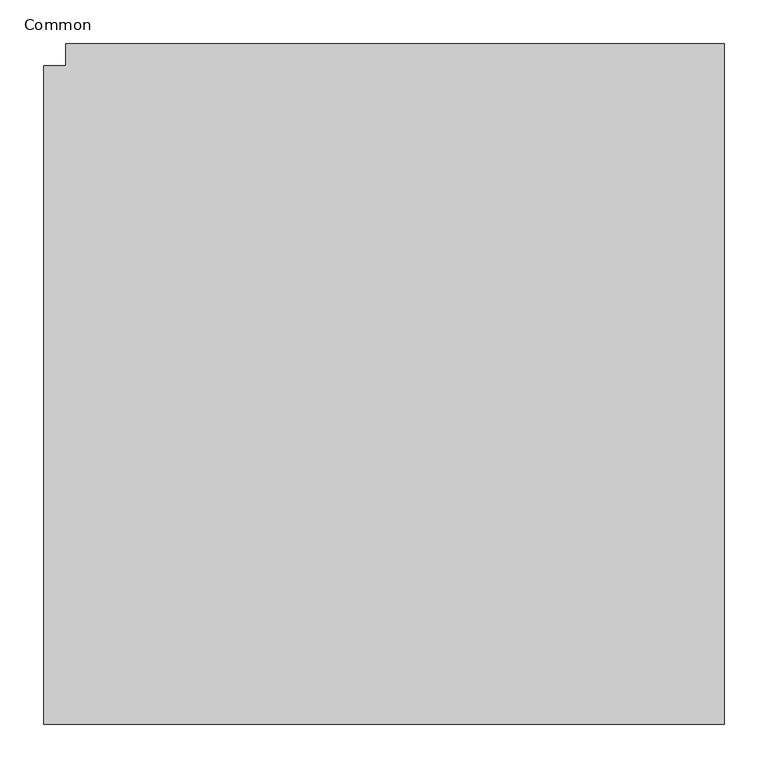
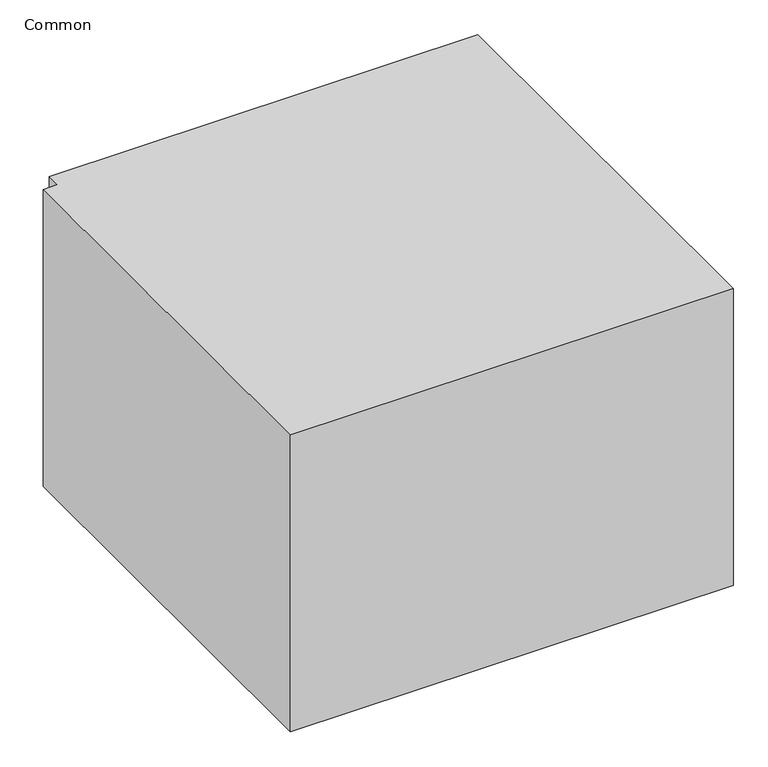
"""IFC4 building model written with IfcOpenShell, lengths in millimetres: duct fitting geometry, 014_角形分割エルボ - 一重ベーン : Common."""

import ifcopenshell
import ifcopenshell.guid

model = None  # the IFC model being written
_history = None  # IfcOwnerHistory: only IFC2X3 demands one
_inside = {}  # id of a spatial element -> (the spatial element, [elements in it])
_under = {}  # id of a project, library or spatial element -> (it, [spatial elements below it])
_declared = {}  # id of a project -> (the project, [libraries it declares])
_typed = {}  # id of a type object -> (the type object, [elements of that type])
_made_of = {}  # id of a material, layer set ... -> (it, [elements and type objects made of it])


def new_model(schema):
    """Start an empty IFC model of exactly this schema.

    Asked for "IFC4X3", IfcOpenShell would pick the latest addendum, in which some entities
    have other attributes; the version numbers below select the first issue.
    IFC2X3 requires an IfcOwnerHistory on every rooted entity: one is made here for all.
    """
    global model, _history
    if schema == "IFC4X3":
        model = ifcopenshell.file(schema_version=(4, 3, 0, 0))
    else:
        model = ifcopenshell.file(schema=schema)
    _inside.clear()
    _under.clear()
    _declared.clear()
    _typed.clear()
    _made_of.clear()
    _history = None
    if model.schema == "IFC2X3":
        org = make("IfcOrganization", Name="unknown")
        user = make(
            "IfcPersonAndOrganization",
            ThePerson=make("IfcPerson", FamilyName="unknown"),
            TheOrganization=org,
        )
        app = make(
            "IfcApplication",
            ApplicationDeveloper=org,
            Version="unknown",
            ApplicationFullName="unknown",
            ApplicationIdentifier="unknown",
        )
        _history = make(
            "IfcOwnerHistory",
            OwningUser=user,
            OwningApplication=app,
            ChangeAction="ADDED",
            CreationDate=0,
        )
    return model


def make(cls, **values):
    """One entity of the class cls with the attributes given. An attribute that is None is left unset."""
    return model.create_entity(
        cls, **{name: value for name, value in values.items() if value is not None}
    )


def rooted(cls, **values):
    """An entity with a GlobalId (a new one), such as an element, a storey or a relation."""
    return make(cls, GlobalId=ifcopenshell.guid.new(), OwnerHistory=_history, **values)


def si_unit(unit_type, name, prefix=None):
    """IfcSIUnit, for example si_unit("LENGTHUNIT", "METRE", prefix="MILLI")."""
    return make("IfcSIUnit", UnitType=unit_type, Prefix=prefix, Name=name)


def assignment(units):
    """IfcUnitAssignment: the units of a project."""
    return None if units is None else make("IfcUnitAssignment", Units=units)


def point(xyz):
    """IfcCartesianPoint."""
    return None if xyz is None else make("IfcCartesianPoint", Coordinates=xyz)


def direction(xyz):
    """IfcDirection."""
    return None if xyz is None else make("IfcDirection", DirectionRatios=xyz)


def frame(location, z_axis=None, x_axis=None):
    """IfcAxis2Placement3D, a coordinate frame: its origin and axes. An axis left out is left unset."""
    return make(
        "IfcAxis2Placement3D",
        Location=point(location),
        Axis=direction(z_axis),
        RefDirection=direction(x_axis),
    )


def origin():
    """The frame at (0, 0, 0) with its axes left unset."""
    return frame((0.0, 0.0, 0.0))


def place(relative_to, where):
    """IfcLocalPlacement: puts the frame where relative to a parent placement (None: the world)."""
    return make(
        "IfcLocalPlacement", PlacementRelTo=relative_to, RelativePlacement=where
    )


def context(
    kind, dimensions, precision=None, world=None, true_north=None, identifier=None
):
    """IfcGeometricRepresentationContext, for example the 3D "Model" context."""
    return make(
        "IfcGeometricRepresentationContext",
        ContextIdentifier=identifier,
        ContextType=kind,
        CoordinateSpaceDimension=dimensions,
        Precision=precision,
        WorldCoordinateSystem=world,
        TrueNorth=true_north,
    )


def project(units=None, contexts=None):
    """IfcProject with its units and contexts."""
    return rooted(
        "IfcProject",
        Name="project",
        RepresentationContexts=contexts,
        UnitsInContext=assignment(units),
    )


def spatial(cls, under=None, at=None, **own):
    """A site, building, storey or space (cls), placed at a placement, below another one or the project."""
    s = rooted(cls, ObjectPlacement=at, **own)
    if under is not None:
        _under.setdefault(under.id(), (under, []))[1].append(s)
    return s


def polyline(points):
    """IfcPolyline through the points."""
    return make("IfcPolyline", Points=[point(p) for p in points])


def outline(outer, holes=None, kind="AREA"):
    """IfcArbitraryClosedProfileDef: a profile drawn as a closed curve; with holes, ...WithVoids."""
    if holes is None:
        return make("IfcArbitraryClosedProfileDef", ProfileType=kind, OuterCurve=outer)
    return make(
        "IfcArbitraryProfileDefWithVoids",
        ProfileType=kind,
        OuterCurve=outer,
        InnerCurves=holes,
    )


def extrude(swept, where, along, depth):
    """IfcExtrudedAreaSolid: the profile swept, set in the frame where, extruded along a direction by depth."""
    return make(
        "IfcExtrudedAreaSolid",
        SweptArea=swept,
        Position=where,
        ExtrudedDirection=direction(along),
        Depth=depth,
    )


def shape(context_of_items, identifier, shape_type, items):
    """IfcShapeRepresentation: the items that make up one representation, for example the "Body"."""
    return make(
        "IfcShapeRepresentation",
        ContextOfItems=context_of_items,
        RepresentationIdentifier=identifier,
        RepresentationType=shape_type,
        Items=items,
    )


def source(mapping_origin, context_of_items, identifier, shape_type, items):
    """IfcRepresentationMap: a shape defined once, which mapped items show again and again."""
    return make(
        "IfcRepresentationMap",
        MappingOrigin=mapping_origin,
        MappedRepresentation=shape(context_of_items, identifier, shape_type, items),
    )


def transform(
    local_origin,
    x_axis=None,
    y_axis=None,
    z_axis=None,
    scale=None,
    scale2=None,
    scale3=None,
    uniform=True,
):
    """IfcCartesianTransformationOperator3D, or its non-uniform kind. x_axis, y_axis, z_axis: its Axis1, 2, 3."""
    if uniform:
        return make(
            "IfcCartesianTransformationOperator3D",
            Axis1=direction(x_axis),
            Axis2=direction(y_axis),
            LocalOrigin=point(local_origin),
            Scale=scale,
            Axis3=direction(z_axis),
        )
    return make(
        "IfcCartesianTransformationOperator3DnonUniform",
        Axis1=direction(x_axis),
        Axis2=direction(y_axis),
        LocalOrigin=point(local_origin),
        Scale=scale,
        Axis3=direction(z_axis),
        Scale2=scale2,
        Scale3=scale3,
    )


def mapped(mapping_source, mapping_target):
    """IfcMappedItem: shows the shape of a source again, moved by a transform."""
    return make(
        "IfcMappedItem", MappingSource=mapping_source, MappingTarget=mapping_target
    )


def made_of(thing, what):
    """Note that an element or type object is made of a material, layer set ...; save() writes the relation."""
    if what is not None:
        _made_of.setdefault(what.id(), (what, []))[1].append(thing)
    return thing


def element(
    cls,
    number,
    at=None,
    inside=None,
    cuts=None,
    type_object=None,
    material=None,
    context=None,
    identifier="Body",
    shape_type=None,
    held_by="IfcProductDefinitionShape",
    body=None,
    shapes=None,
    **own,
):
    """One element of the class cls, such as IfcWall. Its Tag is "e" and its number.

    at: its placement. inside: the storey or other place that contains it. cuts: it is an
    opening in that element (IfcRelVoidsElement). A single representation is given by context,
    identifier, shape_type and body (its items); several are given by shapes. held_by: the class
    of the entity that holds the representations. save() writes the other relations.
    """
    e = rooted(cls, Tag="e%d" % number, ObjectPlacement=at, **own)
    if body is not None:
        shapes = [shape(context, identifier, shape_type, body)]
    if shapes is not None:
        e.Representation = make(held_by, Representations=shapes)
    if inside is not None:
        _inside.setdefault(inside.id(), (inside, []))[1].append(e)
    if cuts is not None:
        rooted(
            "IfcRelVoidsElement", RelatingBuildingElement=cuts, RelatedOpeningElement=e
        )
    if type_object is not None:
        _typed.setdefault(type_object.id(), (type_object, []))[1].append(e)
    return made_of(e, material)


def aggregate(whole, parts):
    """IfcRelAggregates: a whole, such as a stair, and the parts it consists of."""
    return rooted("IfcRelAggregates", RelatingObject=whole, RelatedObjects=parts)


def save(model, path):
    """Write the relations noted so far, then the file.

    IfcRelAggregates (storeys below a building ...), IfcRelContainedInSpatialStructure (elements
    in a storey), IfcRelDefinesByType, IfcRelAssociatesMaterial and IfcRelDeclares: one each for
    every whole, place, type object, material and project.
    """
    for whole, parts in _under.values():
        aggregate(whole, parts)
    for where, things in _inside.values():
        rooted(
            "IfcRelContainedInSpatialStructure",
            RelatedElements=things,
            RelatingStructure=where,
        )
    for kind, things in _typed.values():
        rooted("IfcRelDefinesByType", RelatedObjects=things, RelatingType=kind)
    for what, things in _made_of.values():
        rooted("IfcRelAssociatesMaterial", RelatedObjects=things, RelatingMaterial=what)
    for by, libraries in _declared.values():
        rooted("IfcRelDeclares", RelatingContext=by, RelatedDefinitions=libraries)
    model.write(path)


def common_aa00709b(model_context):
    return source(origin(), model_context, "Body", "SweptSolid", [
        extrude(outline(polyline([(-400.0, -375.0), (-400.0, 375.0), (-375.0, 375.0), (-375.0, 400.0), (375.0, 400.0), (375.0, -375.0), (-400.0, -375.0)])), frame((0.0, 0.0, -275.0), z_axis=(0.0, 0.0, 1.0), x_axis=(1.0, 0.0, 0.0)), (0.0, 0.0, 1.0), 550.0),
    ])


if __name__ == "__main__":
    model = new_model("IFC4")
    model_context = context("Model", 3, world=origin())
    ifc_project = project(units=[si_unit("LENGTHUNIT", "METRE", prefix="MILLI")], contexts=[model_context])
    site = spatial("IfcSite", under=ifc_project)
    building = spatial("IfcBuilding", under=site)
    placement = place(None, origin())
    common_shape = common_aa00709b(model_context)
    element("IfcDuctFitting", 1, ObjectType="014_角形分割エルボ - 一重ベーン : Common", at=placement, inside=building, context=model_context, shape_type="MappedRepresentation", body=[
        mapped(common_shape, transform((0.0, 0.0, 0.0), x_axis=(1.0, 0.0, 0.0), y_axis=(0.0, 1.0, 0.0), z_axis=(0.0, 0.0, 1.0))),
    ])
    save(model, "model.ifc")
